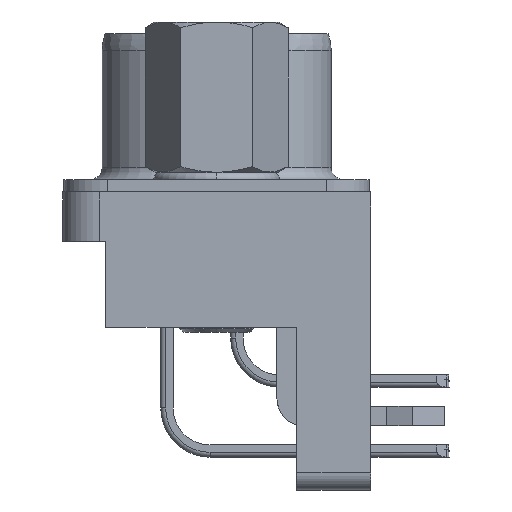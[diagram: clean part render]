
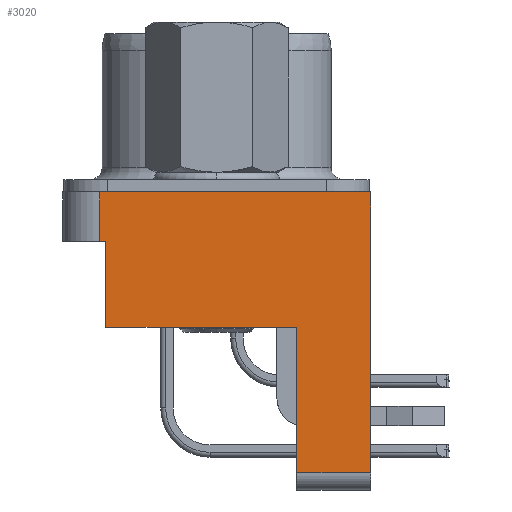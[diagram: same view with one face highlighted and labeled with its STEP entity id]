
A CAD part, left-side view. The second image highlights one B-rep face of the part: STEP entity #3020.
In plain terms, the highlighted planar face has unit normal (-1, 0, 0).
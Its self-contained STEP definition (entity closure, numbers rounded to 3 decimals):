
#302 = ORIENTED_EDGE ( 'NONE', *, *, #7688, .F. ) ;
#327 = EDGE_LOOP ( 'NONE', ( #18956, #302, #10507, #19792, #3869, #10833, #8796, #869 ) ) ;
#869 = ORIENTED_EDGE ( 'NONE', *, *, #4713, .F. ) ;
#1437 = VECTOR ( 'NONE', #7024, 1000. ) ;
#2811 = VERTEX_POINT ( 'NONE', #7244 ) ;
#2897 = VECTOR ( 'NONE', #3004, 1000. ) ;
#2916 = PLANE ( 'NONE',  #13094 ) ;
#3004 = DIRECTION ( 'NONE',  ( 0., 0., 1. ) ) ;
#3020 = ADVANCED_FACE ( 'NONE', ( #8336 ), #2916, .T. ) ;
#3628 = VECTOR ( 'NONE', #3838, 1000. ) ;
#3838 = DIRECTION ( 'NONE',  ( 0., -1., 0. ) ) ;
#3869 = ORIENTED_EDGE ( 'NONE', *, *, #22820, .F. ) ;
#3945 = CARTESIAN_POINT ( 'NONE',  ( -15.4, 4.5, -2. ) ) ;
#4023 = VERTEX_POINT ( 'NONE', #19259 ) ;
#4035 = DIRECTION ( 'NONE',  ( 0., -1., 0. ) ) ;
#4103 = CARTESIAN_POINT ( 'NONE',  ( -15.4, -6.25, -11.4 ) ) ;
#4276 = LINE ( 'NONE', #12813, #5707 ) ;
#4593 = DIRECTION ( 'NONE',  ( 0., 0., 1. ) ) ;
#4713 = EDGE_CURVE ( 'NONE', #19201, #15819, #6527, .T. ) ;
#4760 = DIRECTION ( 'NONE',  ( 0., 0., 1. ) ) ;
#4827 = CARTESIAN_POINT ( 'NONE',  ( -15.4, 6.25, -5.5 ) ) ;
#4836 = CARTESIAN_POINT ( 'NONE',  ( -15.4, -6.25, -5.5 ) ) ;
#5435 = DIRECTION ( 'NONE',  ( 0., -1., 0. ) ) ;
#5439 = CARTESIAN_POINT ( 'NONE',  ( -15.4, -6.25, -11.4 ) ) ;
#5707 = VECTOR ( 'NONE', #5435, 1000. ) ;
#6527 = LINE ( 'NONE', #13667, #14045 ) ;
#6763 = VECTOR ( 'NONE', #12235, 1000. ) ;
#7024 = DIRECTION ( 'NONE',  ( 0., 0., -1. ) ) ;
#7244 = CARTESIAN_POINT ( 'NONE',  ( -15.4, 4.75, 0. ) ) ;
#7688 = EDGE_CURVE ( 'NONE', #4023, #20075, #19079, .T. ) ;
#8336 = FACE_OUTER_BOUND ( 'NONE', #327, .T. ) ;
#8796 = ORIENTED_EDGE ( 'NONE', *, *, #16916, .T. ) ;
#8929 = CARTESIAN_POINT ( 'NONE',  ( -15.4, -3.25, -5.5 ) ) ;
#8999 = DIRECTION ( 'NONE',  ( 0., 0., 1. ) ) ;
#9112 = EDGE_CURVE ( 'NONE', #2811, #19221, #14413, .T. ) ;
#9889 = VECTOR ( 'NONE', #8999, 1000. ) ;
#10163 = LINE ( 'NONE', #11546, #20556 ) ;
#10365 = CARTESIAN_POINT ( 'NONE',  ( -15.4, 6.25, -5.5 ) ) ;
#10507 = ORIENTED_EDGE ( 'NONE', *, *, #18545, .T. ) ;
#10833 = ORIENTED_EDGE ( 'NONE', *, *, #9112, .T. ) ;
#11350 = CARTESIAN_POINT ( 'NONE',  ( -15.4, -6.25, 0. ) ) ;
#11546 = CARTESIAN_POINT ( 'NONE',  ( -15.4, 6.25, 0. ) ) ;
#11955 = LINE ( 'NONE', #10365, #6763 ) ;
#12235 = DIRECTION ( 'NONE',  ( 0., -1., 0. ) ) ;
#12287 = LINE ( 'NONE', #5439, #3628 ) ;
#12813 = CARTESIAN_POINT ( 'NONE',  ( -15.4, 7.5, -2. ) ) ;
#13094 = AXIS2_PLACEMENT_3D ( 'NONE', #4827, #15818, #4760 ) ;
#13667 = CARTESIAN_POINT ( 'NONE',  ( -15.4, 4.5, -5.5 ) ) ;
#14045 = VECTOR ( 'NONE', #4593, 1000. ) ;
#14413 = LINE ( 'NONE', #18076, #1437 ) ;
#15018 = EDGE_CURVE ( 'NONE', #18172, #16348, #16743, .T. ) ;
#15818 = DIRECTION ( 'NONE',  ( -1., 0., 0. ) ) ;
#15819 = VERTEX_POINT ( 'NONE', #3945 ) ;
#16348 = VERTEX_POINT ( 'NONE', #11350 ) ;
#16743 = LINE ( 'NONE', #4836, #2897 ) ;
#16916 = EDGE_CURVE ( 'NONE', #19221, #15819, #4276, .T. ) ;
#17997 = CARTESIAN_POINT ( 'NONE',  ( -15.4, -3.25, -5.5 ) ) ;
#18076 = CARTESIAN_POINT ( 'NONE',  ( -15.4, 4.75, -5.5 ) ) ;
#18172 = VERTEX_POINT ( 'NONE', #4103 ) ;
#18545 = EDGE_CURVE ( 'NONE', #4023, #18172, #12287, .T. ) ;
#18857 = CARTESIAN_POINT ( 'NONE',  ( -15.4, 4.5, -5.5 ) ) ;
#18956 = ORIENTED_EDGE ( 'NONE', *, *, #19253, .T. ) ;
#19079 = LINE ( 'NONE', #8929, #9889 ) ;
#19201 = VERTEX_POINT ( 'NONE', #18857 ) ;
#19221 = VERTEX_POINT ( 'NONE', #21692 ) ;
#19253 = EDGE_CURVE ( 'NONE', #19201, #20075, #11955, .T. ) ;
#19259 = CARTESIAN_POINT ( 'NONE',  ( -15.4, -3.25, -11.4 ) ) ;
#19792 = ORIENTED_EDGE ( 'NONE', *, *, #15018, .T. ) ;
#20075 = VERTEX_POINT ( 'NONE', #17997 ) ;
#20556 = VECTOR ( 'NONE', #4035, 1000. ) ;
#21692 = CARTESIAN_POINT ( 'NONE',  ( -15.4, 4.75, -2. ) ) ;
#22820 = EDGE_CURVE ( 'NONE', #2811, #16348, #10163, .T. ) ;
